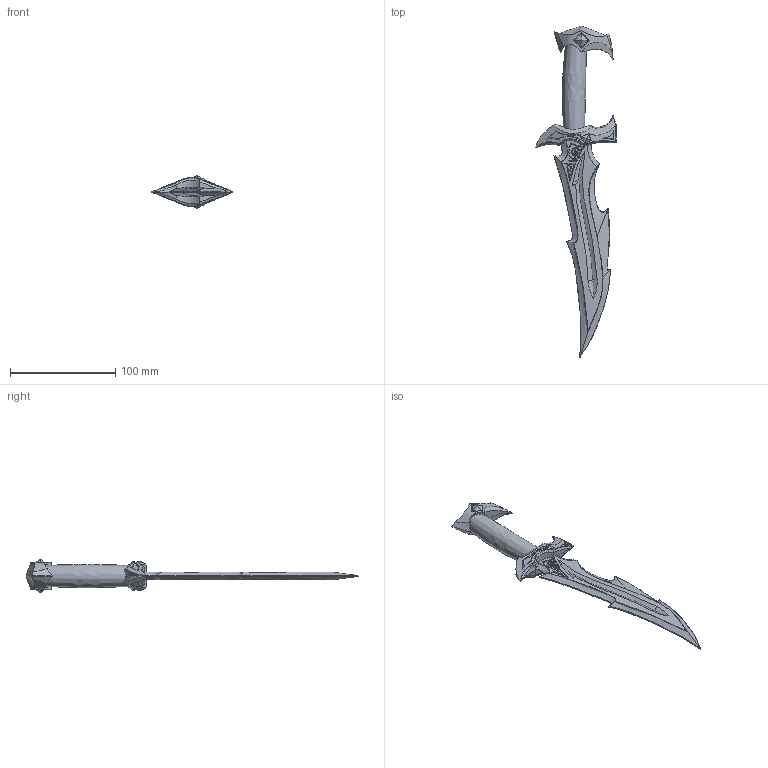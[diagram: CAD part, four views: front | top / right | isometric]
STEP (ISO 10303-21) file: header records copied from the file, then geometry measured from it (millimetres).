
FILE_DESCRIPTION(/* description */ (''),/* implementation_level */ '2;1');
FILE_NAME(/* name */ 'C:/Users/Kyle Finnigan/Downloads/Reaver Knife/Reaver Knife.step',/* time_stamp */ '2021-05-24T03:29:38+08:00',/* author */ (''),/* organization */ (''),/* preprocessor_version */ 'ST-DEVELOPER v18.1',/* originating_system */ 'Autodesk Translation Framework v10.6.0.1341',/* authorisation */ '');
FILE_SCHEMA (('AUTOMOTIVE_DESIGN { 1 0 10303 214 3 1 1 }'));
Length unit declared in the file: millimetre
Products named in the file (1): Reaver Knife
Bounding box: 76.29 x 316.18 x 31.83 mm (x, y, z)
Volume: 89701.2 mm3; surface area: 49923.2 mm2
Topology: 12 solids, 12 shells, 410 faces, 1069 edges, 697 vertices
Faces by surface type: bspline 253, plane 121, cylinder 32, sphere 4
Entity records: 33072 total; most frequent: CARTESIAN_POINT 25287, ORIENTED_EDGE 2102, EDGE_CURVE 1051, DIRECTION 714, B_SPLINE_CURVE_WITH_KNOTS 693, VERTEX_POINT 689, EDGE_LOOP 418, FACE_OUTER_BOUND 402
